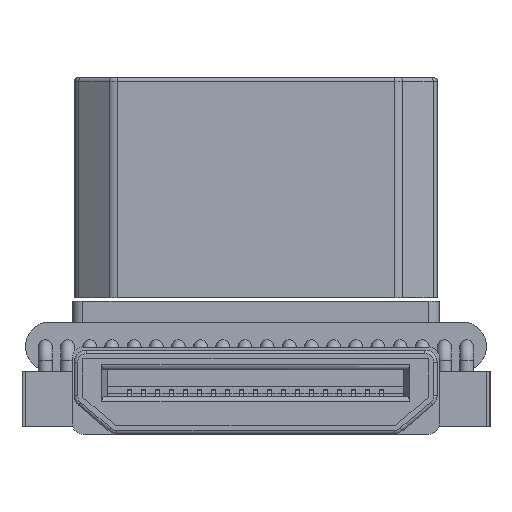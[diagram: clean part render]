
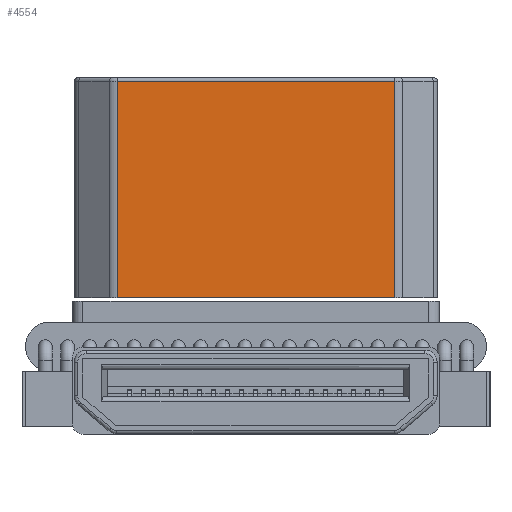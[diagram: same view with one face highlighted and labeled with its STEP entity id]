
A CAD part, front view. The second image highlights one B-rep face of the part: STEP entity #4554.
In plain terms, the highlighted planar face has unit normal (0, -1, 0) as drawn and (0, 1, 0) by its records, which use the part's own axes.
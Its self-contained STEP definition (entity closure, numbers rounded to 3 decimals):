
#3341 = VERTEX_POINT('',#3342);
#3342 = CARTESIAN_POINT('',(3.972,-3.,6.3));
#3349 = EDGE_CURVE('',#3350,#3341,#3352,.T.);
#3350 = VERTEX_POINT('',#3351);
#3351 = CARTESIAN_POINT('',(-3.972,-3.,6.3));
#3352 = LINE('',#3353,#3354);
#3353 = CARTESIAN_POINT('',(-4.1,-3.,6.3));
#3354 = VECTOR('',#3355,1.);
#3355 = DIRECTION('',(1.,0.,0.));
#4554 = ADVANCED_FACE('',(#4555),#4580,.F.);
#4555 = FACE_BOUND('',#4556,.T.);
#4556 = EDGE_LOOP('',(#4557,#4565,#4573,#4579));
#4557 = ORIENTED_EDGE('',*,*,#4558,.T.);
#4558 = EDGE_CURVE('',#3341,#4559,#4561,.T.);
#4559 = VERTEX_POINT('',#4560);
#4560 = CARTESIAN_POINT('',(3.972,-3.,0.1));
#4561 = LINE('',#4562,#4563);
#4562 = CARTESIAN_POINT('',(3.972,-3.,0.));
#4563 = VECTOR('',#4564,1.);
#4564 = DIRECTION('',(0.,0.,-1.));
#4565 = ORIENTED_EDGE('',*,*,#4566,.T.);
#4566 = EDGE_CURVE('',#4559,#4567,#4569,.T.);
#4567 = VERTEX_POINT('',#4568);
#4568 = CARTESIAN_POINT('',(-3.972,-3.,0.1));
#4569 = LINE('',#4570,#4571);
#4570 = CARTESIAN_POINT('',(-3.972,-3.,0.1));
#4571 = VECTOR('',#4572,1.);
#4572 = DIRECTION('',(-1.,0.,0.));
#4573 = ORIENTED_EDGE('',*,*,#4574,.T.);
#4574 = EDGE_CURVE('',#4567,#3350,#4575,.T.);
#4575 = LINE('',#4576,#4577);
#4576 = CARTESIAN_POINT('',(-3.972,-3.,0.));
#4577 = VECTOR('',#4578,1.);
#4578 = DIRECTION('',(0.,0.,1.));
#4579 = ORIENTED_EDGE('',*,*,#3349,.T.);
#4580 = PLANE('',#4581);
#4581 = AXIS2_PLACEMENT_3D('',#4582,#4583,#4584);
#4582 = CARTESIAN_POINT('',(-4.1,-3.,0.));
#4583 = DIRECTION('',(0.,-1.,0.));
#4584 = DIRECTION('',(0.,0.,-1.));
